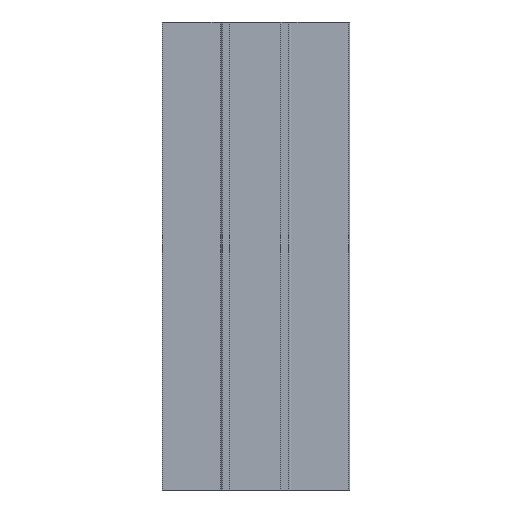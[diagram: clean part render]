
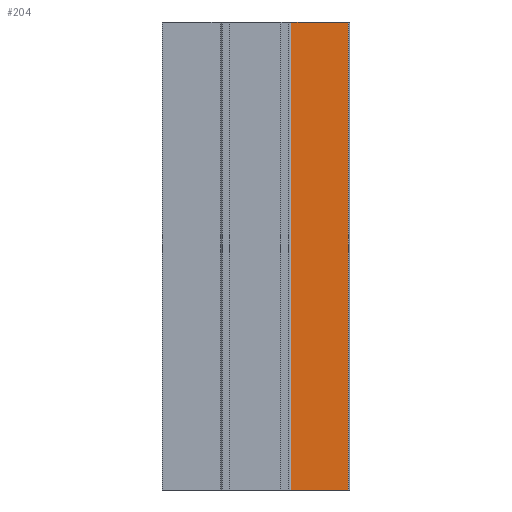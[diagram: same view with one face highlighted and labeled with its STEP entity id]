
A CAD part, left-side view. The second image highlights one B-rep face of the part: STEP entity #204.
In plain terms, the highlighted planar face has unit normal (-1, 0, 0).
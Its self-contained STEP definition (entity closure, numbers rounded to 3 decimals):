
#146=CARTESIAN_POINT('',(0.0,-39.75,200.0));
#147=VERTEX_POINT('',#146);
#155=CARTESIAN_POINT('',(0.0,-39.75,0.0));
#156=VERTEX_POINT('',#155);
#157=CARTESIAN_POINT('',(0.0,-39.75,0.0));
#158=DIRECTION('',(0.0,0.0,1.0));
#159=VECTOR('',#158,200.0);
#160=LINE('',#157,#159);
#161=EDGE_CURVE('',#156,#147,#160,.T.);
#174=CARTESIAN_POINT('',(0.0,-39.75,0.0));
#175=DIRECTION('',(-1.0,0.0,0.0));
#176=DIRECTION('',(0.0,0.0,1.0));
#177=AXIS2_PLACEMENT_3D('',#174,#175,#176);
#178=PLANE('',#177);
#179=CARTESIAN_POINT('',(0.0,-15.184,200.0));
#180=VERTEX_POINT('',#179);
#181=CARTESIAN_POINT('',(0.0,-39.75,200.0));
#182=DIRECTION('',(0.0,1.0,0.0));
#183=VECTOR('',#182,24.566);
#184=LINE('',#181,#183);
#185=EDGE_CURVE('',#147,#180,#184,.T.);
#186=ORIENTED_EDGE('',*,*,#185,.T.);
#187=CARTESIAN_POINT('',(0.0,-15.184,0.0));
#188=VERTEX_POINT('',#187);
#189=CARTESIAN_POINT('',(0.0,-15.184,0.0));
#190=DIRECTION('',(0.0,0.0,1.0));
#191=VECTOR('',#190,200.0);
#192=LINE('',#189,#191);
#193=EDGE_CURVE('',#188,#180,#192,.T.);
#194=ORIENTED_EDGE('',*,*,#193,.F.);
#195=CARTESIAN_POINT('',(0.0,-39.75,0.0));
#196=DIRECTION('',(0.0,1.0,0.0));
#197=VECTOR('',#196,24.566);
#198=LINE('',#195,#197);
#199=EDGE_CURVE('',#156,#188,#198,.T.);
#200=ORIENTED_EDGE('',*,*,#199,.F.);
#201=ORIENTED_EDGE('',*,*,#161,.T.);
#202=EDGE_LOOP('',(#186,#194,#200,#201));
#203=FACE_OUTER_BOUND('',#202,.T.);
#204=ADVANCED_FACE('',(#203),#178,.T.);
